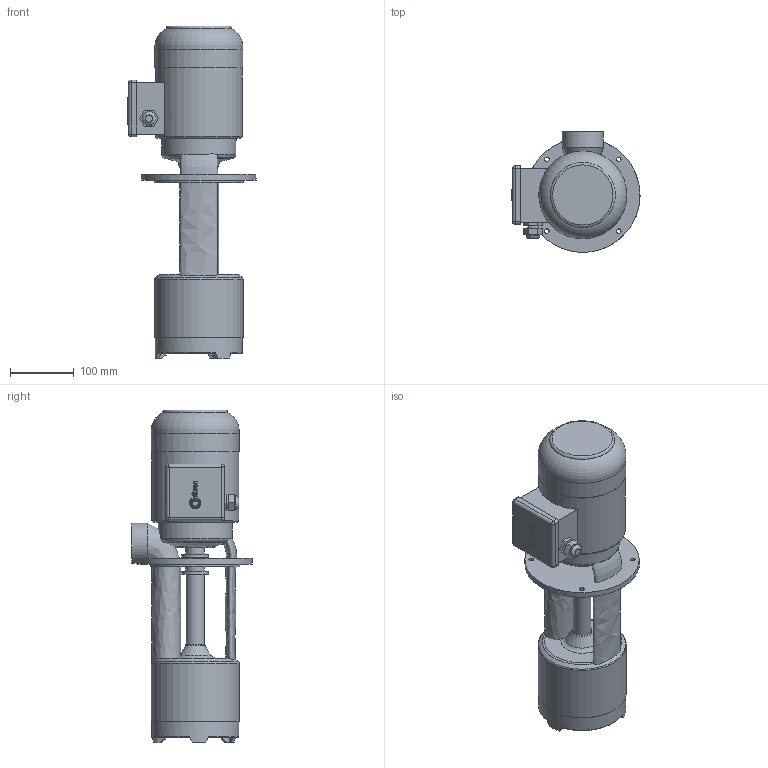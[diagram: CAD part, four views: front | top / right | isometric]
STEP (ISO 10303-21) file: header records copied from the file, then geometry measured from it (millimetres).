
FILE_DESCRIPTION(/* description */ ('Unknown'),/* implementation_level */ '2;1');
FILE_NAME(/* name */ 'EP 153-280',/* time_stamp */ '2023-03-30T13:27:18+03:00',/* author */ ('Unknown'),/* organization */ ('Unknown'),/* preprocessor_version */ 'ST-DEVELOPER v16.7',/* originating_system */ 'DEX',/* authorisation */ $);
FILE_SCHEMA (('AUTOMOTIVE_DESIGN {1 0 10303 214 3 1 1}'));
Length unit declared in the file: millimetre
Products named in the file (1): EP 153-280
Bounding box: 201.5 x 190 x 522.36 mm (x, y, z)
Volume: 6085158.4 mm3; surface area: 340938.6 mm2
Topology: 1 solids, 1 shells, 264 faces, 670 edges, 431 vertices
Faces by surface type: plane 91, bspline 81, cylinder 56, torus 26, cone 10
Full cylindrical faces by diameter (mm): 7 x4, 17 x1, 21.5 x1, 28 x1, 29 x3, 30 x1, 42 x2, 44 x1, 48 x1, 62 x1, 94 x1, 116.969 x1, 136.473 x1, 137 x1, 137.994 x1, 139 x1, 140 x1, 180 x1
Entity records: 11304 total; most frequent: CARTESIAN_POINT 5670, ORIENTED_EDGE 1204, DIRECTION 957, EDGE_CURVE 602, VERTEX_POINT 415, AXIS2_PLACEMENT_3D 364, EDGE_LOOP 355, FACE_BOUND 355
